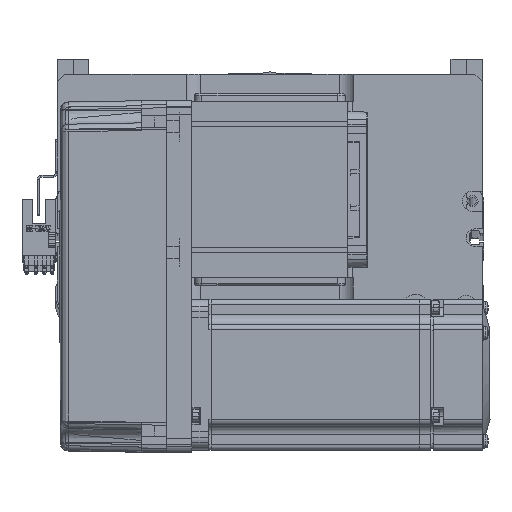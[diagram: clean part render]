
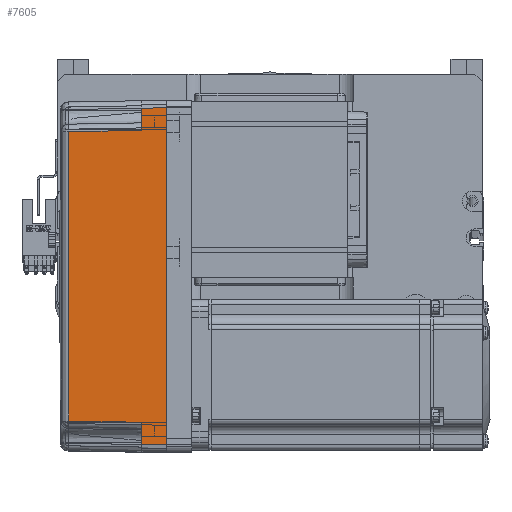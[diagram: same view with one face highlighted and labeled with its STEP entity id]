
A CAD part, top view. The second image highlights one B-rep face of the part: STEP entity #7605.
In plain terms, the highlighted planar face has unit normal (-0.018, 0, 1) as drawn and (0, -1, 0.017) by its records, which use the part's own axes.
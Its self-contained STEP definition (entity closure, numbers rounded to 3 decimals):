
#378 = LINE ( 'NONE', #33831, #53158 ) ;
#379 = VERTEX_POINT ( 'NONE', #53894 ) ;
#563 = EDGE_CURVE ( 'NONE', #1442, #379, #4125, .T. ) ;
#659 = LINE ( 'NONE', #46411, #65398 ) ;
#1442 = VERTEX_POINT ( 'NONE', #59764 ) ;
#3059 = ORIENTED_EDGE ( 'NONE', *, *, #563, .F. ) ;
#4125 = LINE ( 'NONE', #9013, #14524 ) ;
#4362 = VECTOR ( 'NONE', #47566, 1000. ) ;
#5182 = EDGE_CURVE ( 'NONE', #1442, #21897, #43576, .T. ) ;
#7605 = ADVANCED_FACE ( 'NONE', ( #8866 ), #18414, .T. ) ;
#7928 = ORIENTED_EDGE ( 'NONE', *, *, #5182, .T. ) ;
#8766 = EDGE_CURVE ( 'NONE', #32995, #12867, #659, .T. ) ;
#8866 = FACE_OUTER_BOUND ( 'NONE', #20713, .T. ) ;
#9013 = CARTESIAN_POINT ( 'NONE',  ( 0., -36., 0. ) ) ;
#10475 = VECTOR ( 'NONE', #48890, 1000. ) ;
#12867 = VERTEX_POINT ( 'NONE', #31020 ) ;
#13281 = EDGE_CURVE ( 'NONE', #379, #12867, #31192, .T. ) ;
#14524 = VECTOR ( 'NONE', #49209, 1000. ) ;
#14635 = VERTEX_POINT ( 'NONE', #30923 ) ;
#16707 = CARTESIAN_POINT ( 'NONE',  ( 67., -36., 0. ) ) ;
#16885 = CARTESIAN_POINT ( 'NONE',  ( 58., -35.825, 10. ) ) ;
#16956 = CARTESIAN_POINT ( 'NONE',  ( -58., -35.825, 10. ) ) ;
#17488 = DIRECTION ( 'NONE',  ( -1., 0., 0. ) ) ;
#17707 = CARTESIAN_POINT ( 'NONE',  ( 70., -35.825, 10. ) ) ;
#18292 = CARTESIAN_POINT ( 'NONE',  ( -66.959, -35.958, 2.39 ) ) ;
#18414 = PLANE ( 'NONE',  #31641 ) ;
#19452 = ORIENTED_EDGE ( 'NONE', *, *, #20187, .T. ) ;
#20187 = EDGE_CURVE ( 'NONE', #46143, #32995, #378, .T. ) ;
#20713 = EDGE_LOOP ( 'NONE', ( #7928, #40038, #63712, #58140, #19452, #59646, #25661, #3059 ) ) ;
#21116 = DIRECTION ( 'NONE',  ( -1., 0., 0. ) ) ;
#21897 = VERTEX_POINT ( 'NONE', #45630 ) ;
#22153 = CARTESIAN_POINT ( 'NONE',  ( 58., -35.825, 10. ) ) ;
#23506 = CARTESIAN_POINT ( 'NONE',  ( 70., -36., 0. ) ) ;
#23938 = DIRECTION ( 'NONE',  ( 0., -0.017, -1. ) ) ;
#24957 = CARTESIAN_POINT ( 'NONE',  ( -57.495, -35.32, 38.985 ) ) ;
#25661 = ORIENTED_EDGE ( 'NONE', *, *, #13281, .F. ) ;
#27219 = CARTESIAN_POINT ( 'NONE',  ( 19.165, -35.316, 39.181 ) ) ;
#27435 = CARTESIAN_POINT ( 'NONE',  ( 57.495, -35.32, 38.985 ) ) ;
#30198 = LINE ( 'NONE', #17707, #59740 ) ;
#30923 = CARTESIAN_POINT ( 'NONE',  ( 57.495, -35.32, 38.985 ) ) ;
#31020 = CARTESIAN_POINT ( 'NONE',  ( -66.826, -35.825, 10. ) ) ;
#31192 = LINE ( 'NONE', #18292, #10475 ) ;
#31641 = AXIS2_PLACEMENT_3D ( 'NONE', #23506, #34020, #23938 ) ;
#32995 = VERTEX_POINT ( 'NONE', #16956 ) ;
#33831 = CARTESIAN_POINT ( 'NONE',  ( -57.495, -35.32, 38.985 ) ) ;
#34020 = DIRECTION ( 'NONE',  ( 0., -1., 0.017 ) ) ;
#35410 = EDGE_CURVE ( 'NONE', #21897, #60272, #30198, .T. ) ;
#40038 = ORIENTED_EDGE ( 'NONE', *, *, #35410, .T. ) ;
#42739 = DIRECTION ( 'NONE',  ( -0.017, 0.017, 1. ) ) ;
#43354 = CARTESIAN_POINT ( 'NONE',  ( -57.495, -35.32, 38.985 ) ) ;
#43576 = LINE ( 'NONE', #16707, #4362 ) ;
#45186 = VECTOR ( 'NONE', #42739, 1000. ) ;
#45630 = CARTESIAN_POINT ( 'NONE',  ( 66.826, -35.825, 10. ) ) ;
#46143 = VERTEX_POINT ( 'NONE', #24957 ) ;
#46411 = CARTESIAN_POINT ( 'NONE',  ( 70., -35.825, 10. ) ) ;
#47566 = DIRECTION ( 'NONE',  ( -0.017, 0.017, 1. ) ) ;
#48890 = DIRECTION ( 'NONE',  ( 0.017, 0.017, 1. ) ) ;
#49209 = DIRECTION ( 'NONE',  ( -1., 0., 0. ) ) ;
#49462 = DIRECTION ( 'NONE',  ( -0.017, -0.017, -1. ) ) ;
#49600 = EDGE_CURVE ( 'NONE', #14635, #46143, #59797, .T. ) ;
#53158 = VECTOR ( 'NONE', #49462, 1000. ) ;
#53894 = CARTESIAN_POINT ( 'NONE',  ( -67., -36., 0. ) ) ;
#58140 = ORIENTED_EDGE ( 'NONE', *, *, #49600, .T. ) ;
#58711 = LINE ( 'NONE', #22153, #45186 ) ;
#58716 = CARTESIAN_POINT ( 'NONE',  ( -19.165, -35.316, 39.181 ) ) ;
#59406 = EDGE_CURVE ( 'NONE', #60272, #14635, #58711, .T. ) ;
#59646 = ORIENTED_EDGE ( 'NONE', *, *, #8766, .T. ) ;
#59740 = VECTOR ( 'NONE', #17488, 1000. ) ;
#59764 = CARTESIAN_POINT ( 'NONE',  ( 67., -36., 0. ) ) ;
#59797 = B_SPLINE_CURVE_WITH_KNOTS ( 'NONE', 3,
 ( #27435, #27219, #58716, #43354 ),
 .UNSPECIFIED., .F., .F.,
 ( 4, 4 ),
 ( 0., 1. ),
 .UNSPECIFIED. ) ;
#60272 = VERTEX_POINT ( 'NONE', #16885 ) ;
#63712 = ORIENTED_EDGE ( 'NONE', *, *, #59406, .T. ) ;
#65398 = VECTOR ( 'NONE', #21116, 1000. ) ;
